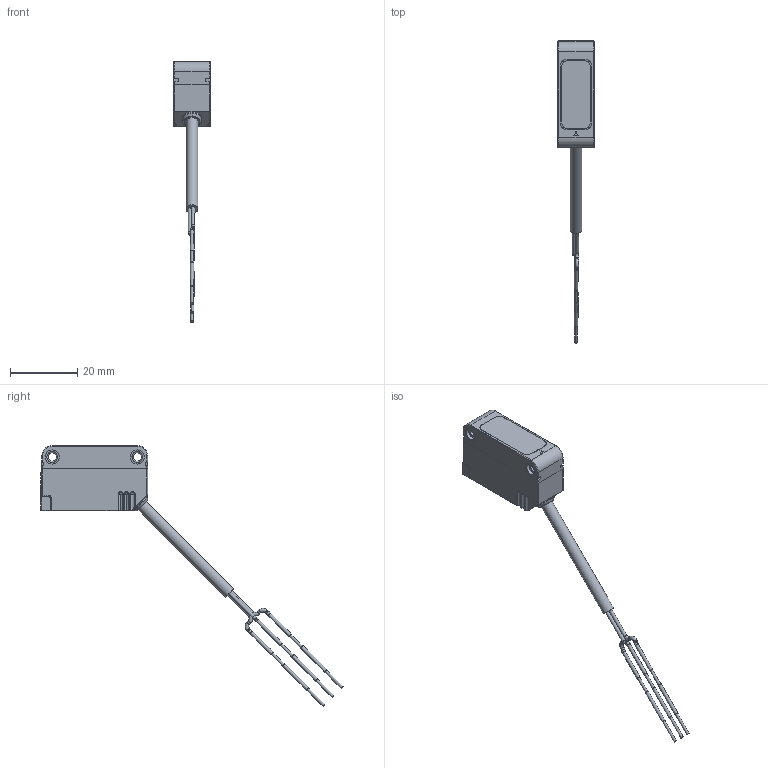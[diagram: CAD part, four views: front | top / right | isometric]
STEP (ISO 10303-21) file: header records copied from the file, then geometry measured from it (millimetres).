
FILE_DESCRIPTION(/* description */ (''),/* implementation_level */ '2;1');
FILE_NAME(/* name */ 'DSD-1161.stp',/* time_stamp */ '2024-06-25T11:40:42+02:00',/* author */ (''),/* organization */ (''),/* preprocessor_version */ 'ST-DEVELOPER v16.701',/* originating_system */ 'SIEMENS PLM Software NX 1946',/* authorisation */ '');
FILE_SCHEMA (('AUTOMOTIVE_DESIGN { 1 0 10303 214 3 1 1 1 }'));
Length unit declared in the file: millimetre
Products named in the file (3): AP061506_00-Bottom Cover per DSD 1161; AP061285_00-Optic Box Group per DSD; AS008632_00-S3N - DSD
Assembly tree (2 placements, depth 2):
  AS008632_00-S3N - DSD
    AP061285_00-Optic Box Group per DSD
    AP061506_00-Bottom Cover per DSD 1161
Bounding box: 10.82 x 90.14 x 77.84 mm (x, y, z)
Volume: 6913.6 mm3; surface area: 5427.1 mm2
Topology: 9 solids, 24 shells, 1332 faces, 3469 edges, 2230 vertices
Faces by surface type: plane 576, extrusion 307, cylinder 248, torus 79, bspline 64, sphere 38, cone 20
Full cylindrical faces by diameter (mm): 0.5 x2, 0.8 x6, 1.05 x14, 2.5 x2, 3.2 x4, 3.454 x1, 3.5 x2, 4.2 x8, 4.244 x1, 4.5 x2, 5.9 x1
Entity records: 47375 total; most frequent: CARTESIAN_POINT 16356, ORIENTED_EDGE 6594, DIRECTION 5318, EDGE_CURVE 3346, VERTEX_POINT 2209, VECTOR 2138, LINE 1831, AXIS2_PLACEMENT_3D 1590
